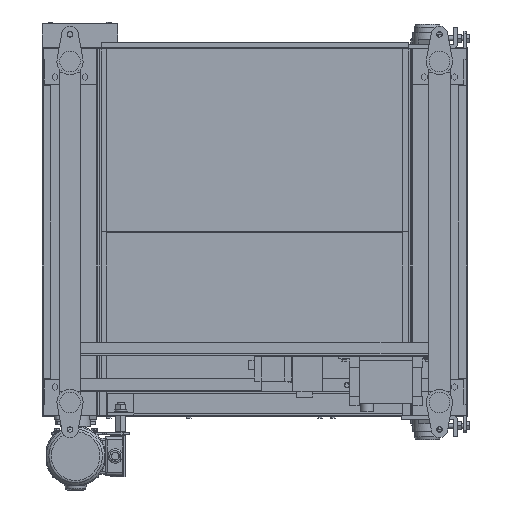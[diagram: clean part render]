
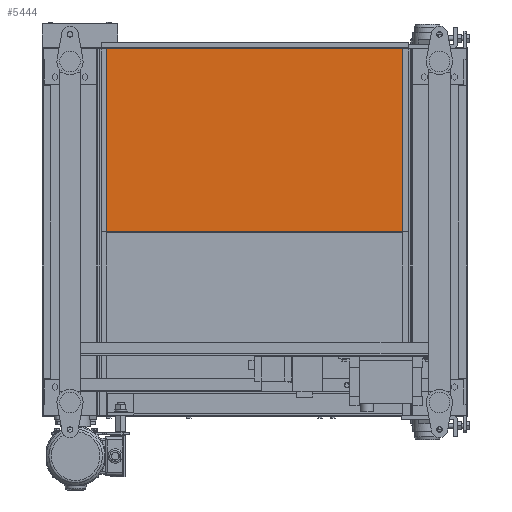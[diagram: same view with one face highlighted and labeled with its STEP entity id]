
A CAD part, front view. The second image highlights one B-rep face of the part: STEP entity #5444.
In plain terms, the highlighted planar face has unit normal (0, -1, 0).
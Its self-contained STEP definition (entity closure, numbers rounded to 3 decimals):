
#5444=ADVANCED_FACE('',(#30435),#30434,.F.);
#30434=PLANE('',#46350);
#30435=FACE_OUTER_BOUND('',#46351,.T.);
#46347=CARTESIAN_POINT('',(127.5,-165.,-10.));
#46348=DIRECTION('',(0.,1.,0.));
#46349=DIRECTION('',(0.,0.,1.));
#46350=AXIS2_PLACEMENT_3D('',#46347,#46348,#46349);
#46351=EDGE_LOOP('',(#61288,#61289,#61290,#61291));
#61288=ORIENTED_EDGE('',*,*,#69225,.F.);
#61289=ORIENTED_EDGE('',*,*,#69231,.F.);
#61290=ORIENTED_EDGE('',*,*,#69232,.F.);
#61291=ORIENTED_EDGE('',*,*,#69233,.F.);
#69225=EDGE_CURVE('',#113332,#113333,#113334,.T.);
#69231=EDGE_CURVE('',#113371,#113332,#113372,.T.);
#69232=EDGE_CURVE('',#113378,#113371,#113379,.T.);
#69233=EDGE_CURVE('',#113333,#113378,#113385,.T.);
#113332=VERTEX_POINT('',#143843);
#113333=VERTEX_POINT('',#143844);
#113334=LINE('',#143845,#143846);
#113371=VERTEX_POINT('',#143864);
#113372=LINE('',#143865,#143866);
#113378=VERTEX_POINT('',#143868);
#113379=LINE('',#143869,#143870);
#113385=LINE('',#143872,#143873);
#143843=CARTESIAN_POINT('',(137.5,-165.,0.));
#143844=CARTESIAN_POINT('',(137.5,-165.,428.2));
#143845=CARTESIAN_POINT('',(137.5,-165.,0.));
#143846=VECTOR('',#143847,428.2);
#143847=DIRECTION('',(0.,0.,1.));
#143864=CARTESIAN_POINT('',(852.5,-165.,0.));
#143865=CARTESIAN_POINT('',(852.5,-165.,0.));
#143866=VECTOR('',#143867,715.);
#143867=DIRECTION('',(-1.,0.,0.));
#143868=CARTESIAN_POINT('',(852.5,-165.,428.2));
#143869=CARTESIAN_POINT('',(852.5,-165.,428.2));
#143870=VECTOR('',#143871,428.2);
#143871=DIRECTION('',(0.,0.,-1.));
#143872=CARTESIAN_POINT('',(137.5,-165.,428.2));
#143873=VECTOR('',#143874,715.);
#143874=DIRECTION('',(1.,0.,0.));
